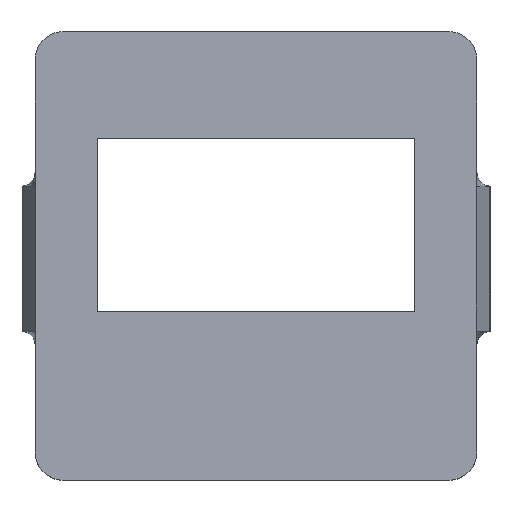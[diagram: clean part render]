
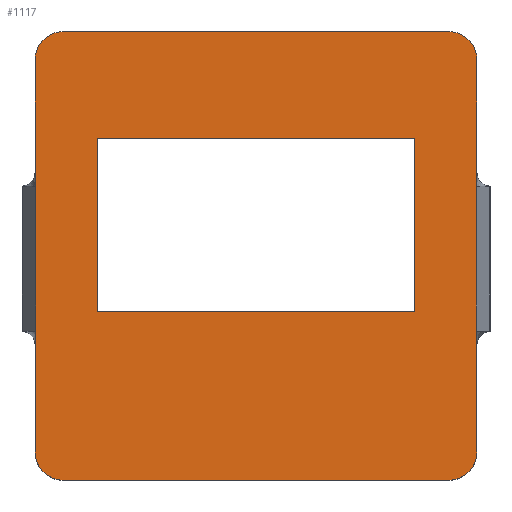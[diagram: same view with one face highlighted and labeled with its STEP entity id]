
A CAD part, top view. The second image highlights one B-rep face of the part: STEP entity #1117.
In plain terms, the highlighted planar face has unit normal (0, 0, 1).
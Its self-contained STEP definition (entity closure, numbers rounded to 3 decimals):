
#41=FACE_BOUND('',#204,.T.);
#66=PLANE('',#1207);
#141=FACE_OUTER_BOUND('',#203,.T.);
#203=EDGE_LOOP('',(#995,#996,#997,#998,#999,#1000,#1001,#1002,#1003,#1004,
#1005,#1006,#1007,#1008,#1009,#1010));
#204=EDGE_LOOP('',(#1011,#1012,#1013,#1014));
#218=LINE('',#1633,#334);
#226=LINE('',#1729,#342);
#236=LINE('',#1911,#352);
#239=LINE('',#1917,#355);
#241=LINE('',#1920,#357);
#244=LINE('',#1932,#360);
#247=LINE('',#1940,#363);
#249=LINE('',#1944,#365);
#252=LINE('',#1949,#368);
#254=LINE('',#1958,#370);
#258=LINE('',#1969,#374);
#293=LINE('',#2062,#409);
#300=LINE('',#2086,#416);
#301=LINE('',#2088,#417);
#302=LINE('',#2090,#418);
#303=LINE('',#2091,#419);
#334=VECTOR('',#1244,8.75);
#342=VECTOR('',#1266,10.5);
#352=VECTOR('',#1298,9.15);
#355=VECTOR('',#1303,0.05);
#357=VECTOR('',#1307,0.05);
#360=VECTOR('',#1318,27.9);
#363=VECTOR('',#1329,8.75);
#365=VECTOR('',#1333,0.05);
#368=VECTOR('',#1338,0.05);
#370=VECTOR('',#1348,27.9);
#374=VECTOR('',#1360,9.15);
#409=VECTOR('',#1449,10.5);
#416=VECTOR('',#1476,23.);
#417=VECTOR('',#1477,12.5);
#418=VECTOR('',#1478,23.);
#419=VECTOR('',#1479,12.5);
#461=CIRCLE('',#1154,2.05);
#463=CIRCLE('',#1158,2.05);
#465=CIRCLE('',#1164,2.05);
#467=CIRCLE('',#1168,2.05);
#504=VERTEX_POINT('',#1630);
#505=VERTEX_POINT('',#1632);
#514=VERTEX_POINT('',#1726);
#515=VERTEX_POINT('',#1728);
#533=VERTEX_POINT('',#1908);
#534=VERTEX_POINT('',#1910);
#535=VERTEX_POINT('',#1914);
#536=VERTEX_POINT('',#1916);
#537=VERTEX_POINT('',#1922);
#538=VERTEX_POINT('',#1923);
#541=VERTEX_POINT('',#1931);
#543=VERTEX_POINT('',#1943);
#544=VERTEX_POINT('',#1947);
#545=VERTEX_POINT('',#1951);
#547=VERTEX_POINT('',#1957);
#549=VERTEX_POINT('',#1963);
#587=VERTEX_POINT('',#2084);
#588=VERTEX_POINT('',#2085);
#589=VERTEX_POINT('',#2087);
#590=VERTEX_POINT('',#2089);
#607=EDGE_CURVE('',#504,#505,#218,.T.);
#622=EDGE_CURVE('',#514,#515,#226,.T.);
#646=EDGE_CURVE('',#533,#534,#236,.T.);
#649=EDGE_CURVE('',#535,#536,#239,.T.);
#651=EDGE_CURVE('',#505,#514,#241,.T.);
#652=EDGE_CURVE('',#537,#538,#461,.T.);
#656=EDGE_CURVE('',#538,#541,#244,.T.);
#659=EDGE_CURVE('',#541,#504,#463,.T.);
#661=EDGE_CURVE('',#536,#537,#247,.T.);
#663=EDGE_CURVE('',#515,#543,#249,.T.);
#666=EDGE_CURVE('',#534,#544,#252,.T.);
#667=EDGE_CURVE('',#545,#533,#465,.T.);
#670=EDGE_CURVE('',#547,#545,#254,.T.);
#673=EDGE_CURVE('',#549,#547,#467,.T.);
#676=EDGE_CURVE('',#543,#549,#258,.T.);
#724=EDGE_CURVE('',#544,#535,#293,.T.);
#734=EDGE_CURVE('',#587,#588,#300,.T.);
#735=EDGE_CURVE('',#589,#587,#301,.T.);
#736=EDGE_CURVE('',#590,#589,#302,.T.);
#737=EDGE_CURVE('',#588,#590,#303,.T.);
#995=ORIENTED_EDGE('',*,*,#622,.F.);
#996=ORIENTED_EDGE('',*,*,#651,.F.);
#997=ORIENTED_EDGE('',*,*,#607,.F.);
#998=ORIENTED_EDGE('',*,*,#659,.F.);
#999=ORIENTED_EDGE('',*,*,#656,.F.);
#1000=ORIENTED_EDGE('',*,*,#652,.F.);
#1001=ORIENTED_EDGE('',*,*,#661,.F.);
#1002=ORIENTED_EDGE('',*,*,#649,.F.);
#1003=ORIENTED_EDGE('',*,*,#724,.F.);
#1004=ORIENTED_EDGE('',*,*,#666,.F.);
#1005=ORIENTED_EDGE('',*,*,#646,.F.);
#1006=ORIENTED_EDGE('',*,*,#667,.F.);
#1007=ORIENTED_EDGE('',*,*,#670,.F.);
#1008=ORIENTED_EDGE('',*,*,#673,.F.);
#1009=ORIENTED_EDGE('',*,*,#676,.F.);
#1010=ORIENTED_EDGE('',*,*,#663,.F.);
#1011=ORIENTED_EDGE('',*,*,#734,.F.);
#1012=ORIENTED_EDGE('',*,*,#735,.F.);
#1013=ORIENTED_EDGE('',*,*,#736,.F.);
#1014=ORIENTED_EDGE('',*,*,#737,.F.);
#1117=ADVANCED_FACE('',(#141,#41),#66,.T.);
#1154=AXIS2_PLACEMENT_3D('',#1924,#1310,#1311);
#1158=AXIS2_PLACEMENT_3D('',#1937,#1323,#1324);
#1164=AXIS2_PLACEMENT_3D('',#1952,#1341,#1342);
#1168=AXIS2_PLACEMENT_3D('',#1964,#1353,#1354);
#1207=AXIS2_PLACEMENT_3D('',#2083,#1474,#1475);
#1244=DIRECTION('',(0.,1.,0.));
#1266=DIRECTION('',(0.,1.,0.));
#1298=DIRECTION('',(0.,-1.,0.));
#1303=DIRECTION('',(1.,0.,0.));
#1307=DIRECTION('',(1.,0.,0.));
#1310=DIRECTION('center_axis',(0.,0.,-1.));
#1311=DIRECTION('ref_axis',(1.,0.,0.));
#1318=DIRECTION('',(-1.,0.,0.));
#1323=DIRECTION('center_axis',(0.,0.,-1.));
#1324=DIRECTION('ref_axis',(0.,-1.,0.));
#1329=DIRECTION('',(0.,-1.,0.));
#1333=DIRECTION('',(-1.,0.,0.));
#1338=DIRECTION('',(-1.,0.,0.));
#1341=DIRECTION('center_axis',(0.,0.,-1.));
#1342=DIRECTION('ref_axis',(0.,1.,0.));
#1348=DIRECTION('',(1.,0.,0.));
#1353=DIRECTION('center_axis',(0.,0.,-1.));
#1354=DIRECTION('ref_axis',(-1.,0.,0.));
#1360=DIRECTION('',(0.,1.,0.));
#1449=DIRECTION('',(0.,-1.,0.));
#1474=DIRECTION('center_axis',(0.,0.,1.));
#1475=DIRECTION('ref_axis',(1.,0.,0.));
#1476=DIRECTION('',(-1.,0.,0.));
#1477=DIRECTION('',(0.,1.,0.));
#1478=DIRECTION('',(1.,0.,0.));
#1479=DIRECTION('',(0.,-1.,0.));
#1630=CARTESIAN_POINT('',(-16.,-14.3,0.8));
#1632=CARTESIAN_POINT('',(-16.,-5.55,0.8));
#1633=CARTESIAN_POINT('',(-16.,-2.825,0.8));
#1726=CARTESIAN_POINT('',(-15.95,-5.55,0.8));
#1728=CARTESIAN_POINT('',(-15.95,4.95,0.8));
#1729=CARTESIAN_POINT('',(-15.95,8.,0.8));
#1908=CARTESIAN_POINT('',(16.,14.1,0.8));
#1910=CARTESIAN_POINT('',(16.,4.95,0.8));
#1911=CARTESIAN_POINT('',(16.,2.425,0.8));
#1914=CARTESIAN_POINT('',(15.95,-5.55,0.8));
#1916=CARTESIAN_POINT('',(16.,-5.55,0.8));
#1917=CARTESIAN_POINT('',(8.,-5.55,0.8));
#1920=CARTESIAN_POINT('',(-7.975,-5.55,0.8));
#1922=CARTESIAN_POINT('',(16.,-14.3,0.8));
#1923=CARTESIAN_POINT('',(13.95,-16.35,0.8));
#1924=CARTESIAN_POINT('Origin',(13.95,-14.3,0.8));
#1931=CARTESIAN_POINT('',(-13.95,-16.35,0.8));
#1932=CARTESIAN_POINT('',(-6.975,-16.35,0.8));
#1937=CARTESIAN_POINT('Origin',(-13.95,-14.3,0.8));
#1940=CARTESIAN_POINT('',(16.,-7.2,0.8));
#1943=CARTESIAN_POINT('',(-16.,4.95,0.8));
#1944=CARTESIAN_POINT('',(-8.,4.95,0.8));
#1947=CARTESIAN_POINT('',(15.95,4.95,0.8));
#1949=CARTESIAN_POINT('',(7.975,4.95,0.8));
#1951=CARTESIAN_POINT('',(13.95,16.15,0.8));
#1952=CARTESIAN_POINT('Origin',(13.95,14.1,0.8));
#1957=CARTESIAN_POINT('',(-13.95,16.15,0.8));
#1958=CARTESIAN_POINT('',(6.975,16.15,0.8));
#1963=CARTESIAN_POINT('',(-16.,14.1,0.8));
#1964=CARTESIAN_POINT('Origin',(-13.95,14.1,0.8));
#1969=CARTESIAN_POINT('',(-16.,7.,0.8));
#2062=CARTESIAN_POINT('',(15.95,-8.2,0.8));
#2083=CARTESIAN_POINT('Origin',(0.,-0.1,
0.8));
#2084=CARTESIAN_POINT('',(11.5,8.4,0.8));
#2085=CARTESIAN_POINT('',(-11.5,8.4,0.8));
#2086=CARTESIAN_POINT('',(5.75,8.4,0.8));
#2087=CARTESIAN_POINT('',(11.5,-4.1,0.8));
#2088=CARTESIAN_POINT('',(11.5,-2.1,0.8));
#2089=CARTESIAN_POINT('',(-11.5,-4.1,0.8));
#2090=CARTESIAN_POINT('',(-5.75,-4.1,0.8));
#2091=CARTESIAN_POINT('',(-11.5,4.15,0.8));
